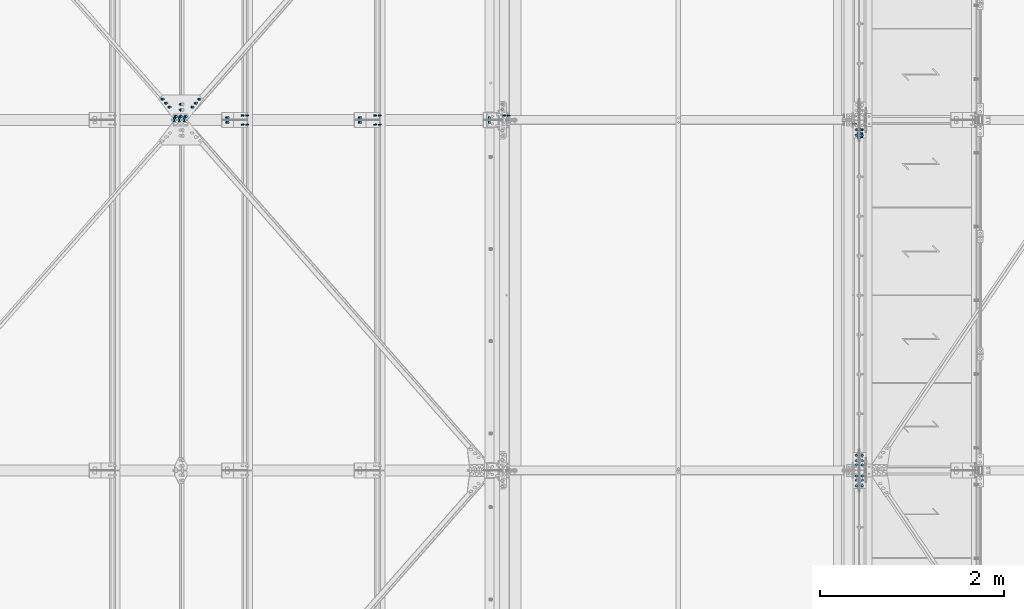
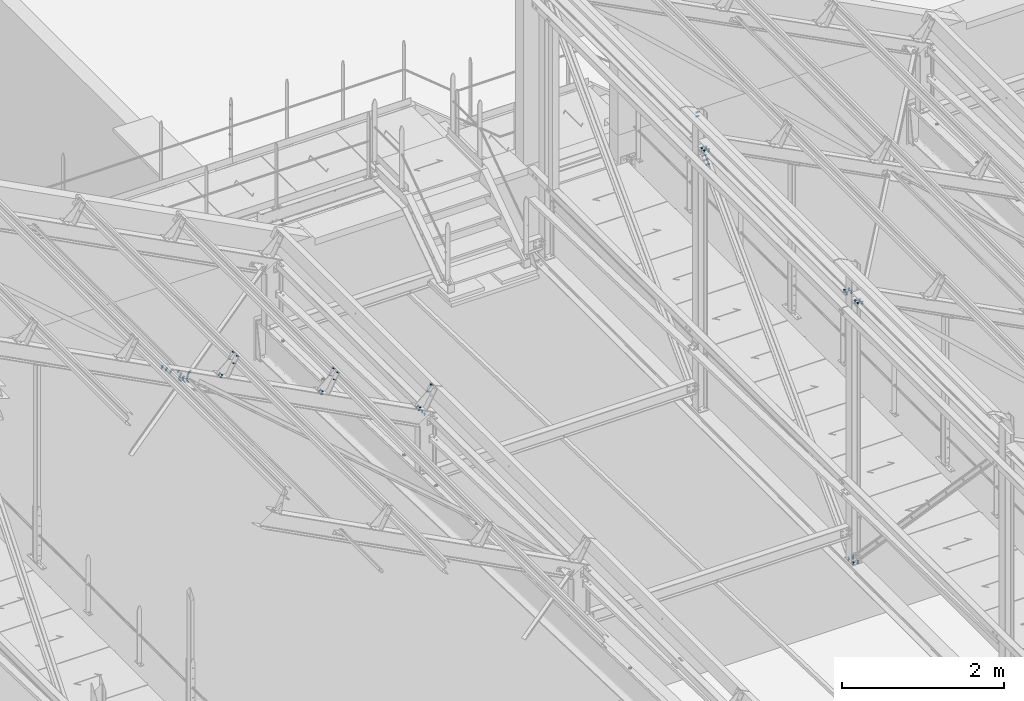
# One storey, part 171 of 362: 18 mechanical fasteners.
"""IFC2X3 building model written with IfcOpenShell, lengths in millimetres."""

import ifcopenshell
import ifcopenshell.guid

model = None  # the IFC model being written
_history = None  # IfcOwnerHistory: only IFC2X3 demands one
_inside = {}  # id of a spatial element -> (the spatial element, [elements in it])
_under = {}  # id of a project, library or spatial element -> (it, [spatial elements below it])
_declared = {}  # id of a project -> (the project, [libraries it declares])
_typed = {}  # id of a type object -> (the type object, [elements of that type])
_made_of = {}  # id of a material, layer set ... -> (it, [elements and type objects made of it])


def new_model(schema):
    """Start an empty IFC model of exactly this schema.

    Asked for "IFC4X3", IfcOpenShell would pick the latest addendum, in which some entities
    have other attributes; the version numbers below select the first issue.
    IFC2X3 requires an IfcOwnerHistory on every rooted entity: one is made here for all.
    """
    global model, _history
    if schema == "IFC4X3":
        model = ifcopenshell.file(schema_version=(4, 3, 0, 0))
    else:
        model = ifcopenshell.file(schema=schema)
    _inside.clear()
    _under.clear()
    _declared.clear()
    _typed.clear()
    _made_of.clear()
    _history = None
    if model.schema == "IFC2X3":
        org = make("IfcOrganization", Name="unknown")
        user = make(
            "IfcPersonAndOrganization",
            ThePerson=make("IfcPerson", FamilyName="unknown"),
            TheOrganization=org,
        )
        app = make(
            "IfcApplication",
            ApplicationDeveloper=org,
            Version="unknown",
            ApplicationFullName="unknown",
            ApplicationIdentifier="unknown",
        )
        _history = make(
            "IfcOwnerHistory",
            OwningUser=user,
            OwningApplication=app,
            ChangeAction="ADDED",
            CreationDate=0,
        )
    return model


def make(cls, **values):
    """One entity of the class cls with the attributes given. An attribute that is None is left unset."""
    return model.create_entity(
        cls, **{name: value for name, value in values.items() if value is not None}
    )


def rooted(cls, **values):
    """An entity with a GlobalId (a new one), such as an element, a storey or a relation."""
    return make(cls, GlobalId=ifcopenshell.guid.new(), OwnerHistory=_history, **values)


def si_unit(unit_type, name, prefix=None):
    """IfcSIUnit, for example si_unit("LENGTHUNIT", "METRE", prefix="MILLI")."""
    return make("IfcSIUnit", UnitType=unit_type, Prefix=prefix, Name=name)


def assignment(units):
    """IfcUnitAssignment: the units of a project."""
    return None if units is None else make("IfcUnitAssignment", Units=units)


def point(xyz):
    """IfcCartesianPoint."""
    return None if xyz is None else make("IfcCartesianPoint", Coordinates=xyz)


def direction(xyz):
    """IfcDirection."""
    return None if xyz is None else make("IfcDirection", DirectionRatios=xyz)


def frame(location, z_axis=None, x_axis=None):
    """IfcAxis2Placement3D, a coordinate frame: its origin and axes. An axis left out is left unset."""
    return make(
        "IfcAxis2Placement3D",
        Location=point(location),
        Axis=direction(z_axis),
        RefDirection=direction(x_axis),
    )


def frame_2d(location, x_axis=None):
    """IfcAxis2Placement2D, a coordinate frame in the plane: its origin and x axis."""
    return make(
        "IfcAxis2Placement2D", Location=point(location), RefDirection=direction(x_axis)
    )


def origin_with_axes():
    """The frame at (0, 0, 0) with the z axis (0, 0, 1) and the x axis (1, 0, 0) written out."""
    return frame((0.0, 0.0, 0.0), z_axis=(0.0, 0.0, 1.0), x_axis=(1.0, 0.0, 0.0))


def origin_2d_with_axis():
    """The frame at (0, 0) in the plane with the x axis (1, 0) written out."""
    return frame_2d((0.0, 0.0), x_axis=(1.0, 0.0))


def place(relative_to, where):
    """IfcLocalPlacement: puts the frame where relative to a parent placement (None: the world)."""
    return make(
        "IfcLocalPlacement", PlacementRelTo=relative_to, RelativePlacement=where
    )


def context(
    kind, dimensions, precision=None, world=None, true_north=None, identifier=None
):
    """IfcGeometricRepresentationContext, for example the 3D "Model" context."""
    return make(
        "IfcGeometricRepresentationContext",
        ContextIdentifier=identifier,
        ContextType=kind,
        CoordinateSpaceDimension=dimensions,
        Precision=precision,
        WorldCoordinateSystem=world,
        TrueNorth=true_north,
    )


def subcontext(parent, identifier, kind, view, scale=None):
    """IfcGeometricRepresentationSubContext, for example "Body" below "Model"."""
    return make(
        "IfcGeometricRepresentationSubContext",
        ContextIdentifier=identifier,
        ContextType=kind,
        ParentContext=parent,
        TargetScale=scale,
        TargetView=view,
    )


def project(units=None, contexts=None):
    """IfcProject with its units and contexts."""
    return rooted(
        "IfcProject",
        Name="project",
        RepresentationContexts=contexts,
        UnitsInContext=assignment(units),
    )


def spatial(cls, under=None, at=None, **own):
    """A site, building, storey or space (cls), placed at a placement, below another one or the project."""
    s = rooted(cls, ObjectPlacement=at, **own)
    if under is not None:
        _under.setdefault(under.id(), (under, []))[1].append(s)
    return s


def polyline(points):
    """IfcPolyline through the points."""
    return make("IfcPolyline", Points=[point(p) for p in points])


def circle_curve(where, radius):
    """IfcCircle in the frame where."""
    return make("IfcCircle", Position=where, Radius=radius)


def parameter(value):
    """IfcParameterValue: where a trimmed curve begins or ends, as a parameter of its basis curve."""
    return model.create_entity("IfcParameterValue", value)


def trimmed(basis, trim1, trim2, sense, master):
    """IfcTrimmedCurve: the piece of a basis curve between two trims."""
    return make(
        "IfcTrimmedCurve",
        BasisCurve=basis,
        Trim1=trim1,
        Trim2=trim2,
        SenseAgreement=sense,
        MasterRepresentation=master,
    )


def segment(curve, same_sense, transition):
    """IfcCompositeCurveSegment."""
    return make(
        "IfcCompositeCurveSegment",
        Transition=transition,
        SameSense=same_sense,
        ParentCurve=curve,
    )


def composite_curve(segments, self_intersect=None):
    """IfcCompositeCurve: segments joined end to end."""
    return make("IfcCompositeCurve", Segments=segments, SelfIntersect=self_intersect)


def profile(cls, at=None, kind="AREA", **sizes):
    """A parametric profile (cls). Its sizes go by their IFC names, for example OverallWidth=200.0."""
    return make(cls, ProfileType=kind, Position=at, **sizes)


def circle(**sizes):
    """IfcCircleProfileDef."""
    return profile("IfcCircleProfileDef", **sizes)


def outline(outer, holes=None, kind="AREA"):
    """IfcArbitraryClosedProfileDef: a profile drawn as a closed curve; with holes, ...WithVoids."""
    if holes is None:
        return make("IfcArbitraryClosedProfileDef", ProfileType=kind, OuterCurve=outer)
    return make(
        "IfcArbitraryProfileDefWithVoids",
        ProfileType=kind,
        OuterCurve=outer,
        InnerCurves=holes,
    )


def extrude(swept, where, along, depth):
    """IfcExtrudedAreaSolid: the profile swept, set in the frame where, extruded along a direction by depth."""
    return make(
        "IfcExtrudedAreaSolid",
        SweptArea=swept,
        Position=where,
        ExtrudedDirection=direction(along),
        Depth=depth,
    )


def shape(context_of_items, identifier, shape_type, items):
    """IfcShapeRepresentation: the items that make up one representation, for example the "Body"."""
    return make(
        "IfcShapeRepresentation",
        ContextOfItems=context_of_items,
        RepresentationIdentifier=identifier,
        RepresentationType=shape_type,
        Items=items,
    )


def source(mapping_origin, context_of_items, identifier, shape_type, items):
    """IfcRepresentationMap: a shape defined once, which mapped items show again and again."""
    return make(
        "IfcRepresentationMap",
        MappingOrigin=mapping_origin,
        MappedRepresentation=shape(context_of_items, identifier, shape_type, items),
    )


def transform(
    local_origin,
    x_axis=None,
    y_axis=None,
    z_axis=None,
    scale=None,
    scale2=None,
    scale3=None,
    uniform=True,
):
    """IfcCartesianTransformationOperator3D, or its non-uniform kind. x_axis, y_axis, z_axis: its Axis1, 2, 3."""
    if uniform:
        return make(
            "IfcCartesianTransformationOperator3D",
            Axis1=direction(x_axis),
            Axis2=direction(y_axis),
            LocalOrigin=point(local_origin),
            Scale=scale,
            Axis3=direction(z_axis),
        )
    return make(
        "IfcCartesianTransformationOperator3DnonUniform",
        Axis1=direction(x_axis),
        Axis2=direction(y_axis),
        LocalOrigin=point(local_origin),
        Scale=scale,
        Axis3=direction(z_axis),
        Scale2=scale2,
        Scale3=scale3,
    )


def mapped(mapping_source, mapping_target):
    """IfcMappedItem: shows the shape of a source again, moved by a transform."""
    return make(
        "IfcMappedItem", MappingSource=mapping_source, MappingTarget=mapping_target
    )


def material(Name=None, Category=None):
    """IfcMaterial."""
    return make("IfcMaterial", Name=Name, Category=Category)


def made_of(thing, what):
    """Note that an element or type object is made of a material, layer set ...; save() writes the relation."""
    if what is not None:
        _made_of.setdefault(what.id(), (what, []))[1].append(thing)
    return thing


def type_object(cls, material=None, **own):
    """A type object (cls), such as IfcWallType, which elements share."""
    return made_of(rooted(cls, **own), material)


def element(
    cls,
    number,
    at=None,
    inside=None,
    cuts=None,
    type_object=None,
    material=None,
    context=None,
    identifier="Body",
    shape_type=None,
    held_by="IfcProductDefinitionShape",
    body=None,
    shapes=None,
    **own,
):
    """One element of the class cls, such as IfcWall. Its Tag is "e" and its number.

    at: its placement. inside: the storey or other place that contains it. cuts: it is an
    opening in that element (IfcRelVoidsElement). A single representation is given by context,
    identifier, shape_type and body (its items); several are given by shapes. held_by: the class
    of the entity that holds the representations. save() writes the other relations.
    """
    e = rooted(cls, Tag="e%d" % number, ObjectPlacement=at, **own)
    if body is not None:
        shapes = [shape(context, identifier, shape_type, body)]
    if shapes is not None:
        e.Representation = make(held_by, Representations=shapes)
    if inside is not None:
        _inside.setdefault(inside.id(), (inside, []))[1].append(e)
    if cuts is not None:
        rooted(
            "IfcRelVoidsElement", RelatingBuildingElement=cuts, RelatedOpeningElement=e
        )
    if type_object is not None:
        _typed.setdefault(type_object.id(), (type_object, []))[1].append(e)
    return made_of(e, material)


def aggregate(whole, parts):
    """IfcRelAggregates: a whole, such as a stair, and the parts it consists of."""
    return rooted("IfcRelAggregates", RelatingObject=whole, RelatedObjects=parts)


def save(model, path):
    """Write the relations noted so far, then the file.

    IfcRelAggregates (storeys below a building ...), IfcRelContainedInSpatialStructure (elements
    in a storey), IfcRelDefinesByType, IfcRelAssociatesMaterial and IfcRelDeclares: one each for
    every whole, place, type object, material and project.
    """
    for whole, parts in _under.values():
        aggregate(whole, parts)
    for where, things in _inside.values():
        rooted(
            "IfcRelContainedInSpatialStructure",
            RelatedElements=things,
            RelatingStructure=where,
        )
    for kind, things in _typed.values():
        rooted("IfcRelDefinesByType", RelatedObjects=things, RelatingType=kind)
    for what, things in _made_of.values():
        rooted("IfcRelAssociatesMaterial", RelatedObjects=things, RelatingMaterial=what)
    for by, libraries in _declared.values():
        rooted("IfcRelDeclares", RelatingContext=by, RelatedDefinitions=libraries)
    model.write(path)


model = new_model("IFC2X3")

# Units and contexts
model_context = context("Model", 3, precision=1e-05, world=origin_with_axes())
body_context = subcontext(model_context, "Body", "Model", "MODEL_VIEW")
ifc_project = project(units=[si_unit("LENGTHUNIT", "METRE", prefix="MILLI"), si_unit("AREAUNIT", "SQUARE_METRE"), si_unit("VOLUMEUNIT", "CUBIC_METRE"), si_unit("MASSUNIT", "GRAM", prefix="KILO"), si_unit("TIMEUNIT", "SECOND"), si_unit("PLANEANGLEUNIT", "RADIAN"), si_unit("SOLIDANGLEUNIT", "STERADIAN"), si_unit("THERMODYNAMICTEMPERATUREUNIT", "DEGREE_CELSIUS"), si_unit("LUMINOUSINTENSITYUNIT", "LUMEN")], contexts=[model_context])

# Site, building, storey
site_placement = place(None, origin_with_axes())
site = spatial("IfcSite", under=ifc_project, at=site_placement, Name="Undefined", CompositionType="ELEMENT")
building_placement = place(site_placement, origin_with_axes())
building = spatial("IfcBuilding", under=site, at=building_placement, Name="Undefined", CompositionType="ELEMENT")
storey_placement = place(building_placement, origin_with_axes())
storey = spatial("IfcBuildingStorey", under=building, at=storey_placement, Name="Undefined", CompositionType="ELEMENT", Elevation=0.0)

# Mechanical fasteners
ifc_material_1 = material(Name="8.8-SB-ZINGUE")
mechanical_fastener_type = type_object("IfcMechanicalFastenerType", Name="Bolt assembly")
shared_shape_1 = source(origin_with_axes(), body_context, "Body", "SweptSolid", [
    extrude(circle(Radius=7.0, at=origin_2d_with_axis()), frame((0.0, -0.100011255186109, 0.0), z_axis=(0.0, 1.0, 0.0), x_axis=(1.0, 0.0, 0.0)), (0.0, 0.0, 1.0), 3.1),
    extrude(circle(Radius=7.0, at=origin_2d_with_axis()), frame((0.0, -9.9, 0.0), z_axis=(0.0, 1.0, 0.0), x_axis=(1.0, 0.0, 0.0)), (0.0, 0.0, 1.0), 10.0),
    extrude(outline(polyline([(10.39230484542, 0.0), (5.19615242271, 9.00000000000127), (-5.19615242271, 9.00000000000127), (-10.39230484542, 0.0), (-5.19615242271, -9.00000000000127), (5.19615242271, -9.00000000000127), (10.39230484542, 0.0)])), frame((0.0, -17.92, 0.0), z_axis=(0.0, 1.0, 0.0), x_axis=(1.0, 0.0, 0.0)), (0.0, 0.0, 1.0), 7.92),
    extrude(circle(Radius=6.0, at=origin_2d_with_axis()), frame((0.0, -10.0000010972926, 0.0), z_axis=(0.0, 1.0, 0.0), x_axis=(1.0, 0.0, 0.0)), (0.0, 0.0, 1.0), 30.0),
    extrude(outline(polyline([(11.5008173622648, 0.0), (5.7504086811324, 9.96000000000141), (-5.7504086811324, 9.96000000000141), (-11.5008173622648, 0.0), (-5.7504086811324, -9.96000000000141), (5.7504086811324, -9.96000000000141), (11.5008173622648, 0.0)])), frame((0.0, 3.00000067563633, 0.0), z_axis=(0.0, 1.0, 0.0), x_axis=(1.0, 0.0, 0.0)), (0.0, 0.0, 1.0), 7.92),
])
mechanical_fastener_1_placement = place(storey_placement, frame((19620.3252333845, 11449.9999403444, 8812.98460901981), z_axis=(0.0, 1.0, 0.0), x_axis=(0.463528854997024, 6.99999093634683e-09, 0.886081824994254)))
element("IfcMechanicalFastener", 1, at=mechanical_fastener_1_placement, inside=storey, type_object=mechanical_fastener_type, material=ifc_material_1, Name="Bolt assembly", NominalDiameter=12.0, NominalLength=30.0, context=body_context, shape_type="MappedRepresentation", body=[
    mapped(shared_shape_1, transform((0.0, 0.0, 0.0))),
    mapped(shared_shape_1, transform((99.9999999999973, -1.63709046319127e-11, 7.73070496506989e-12))),
])
ifc_material_2 = material(Name="#_SB-8.8-ZINGUE")
shared_shape_2 = source(origin_with_axes(), body_context, "Body", "SweptSolid", [
    extrude(circle(Radius=9.0, at=origin_2d_with_axis()), frame((0.0, -5.8999542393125, 0.0), z_axis=(0.0, 1.0, 0.0), x_axis=(1.0, 0.0, 0.0)), (0.0, 0.0, 1.0), 6.0),
    extrude(circle(Radius=9.0, at=origin_2d_with_axis()), frame((0.0, -0.100011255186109, 0.0), z_axis=(0.0, 1.0, 0.0), x_axis=(1.0, 0.0, 0.0)), (0.0, 0.0, 1.0), 6.1),
    extrude(outline(polyline([(13.85640646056, 0.0), (6.92820323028, 12.0000000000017), (-6.92820323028, 12.0000000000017), (-13.85640646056, 0.0), (-6.92820323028, -12.0000000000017), (6.92820323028, -12.0000000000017), (13.85640646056, 0.0)])), frame((0.0, -16.5599735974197, 0.0), z_axis=(0.0, 1.0, 0.0), x_axis=(1.0, 0.0, 0.0)), (0.0, 0.0, 1.0), 10.56),
    extrude(circle(Radius=8.0, at=origin_2d_with_axis()), frame((0.0, -5.9999542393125, 0.0), z_axis=(0.0, 1.0, 0.0), x_axis=(1.0, 0.0, 0.0)), (0.0, 0.0, 1.0), 40.0),
    extrude(outline(polyline([(15.3344231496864, 0.0), (7.6672115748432, 13.2800000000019), (-7.6672115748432, 13.2800000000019), (-15.3344231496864, 0.0), (-7.6672115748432, -13.2800000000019), (7.6672115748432, -13.2800000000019), (15.3344231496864, 0.0)])), frame((0.0, 6.0, 0.0), z_axis=(0.0, 1.0, 0.0), x_axis=(1.0, 0.0, 0.0)), (0.0, 0.0, 1.0), 10.56),
])
for number, where, z_axis, x_axis, name in (
    (2, (15990.8395806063, 11540.9905417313, 10339.2198593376), (-0.628485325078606, -0.704921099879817, 0.32877414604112), (-0.624617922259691, 0.70928572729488, 0.326750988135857), "Bolt assembly"),
    (3, (16239.1604210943, 11540.9905442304, 10209.3179168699), (-0.628485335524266, 0.704921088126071, 0.328774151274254), (0.624617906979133, 0.7092857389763, -0.326750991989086), "Bolt assembly"),
):
    element("IfcMechanicalFastener", number, at=place(storey_placement, frame(where, z_axis=z_axis, x_axis=x_axis)), inside=storey, type_object=mechanical_fastener_type, material=ifc_material_2, Name=name, NominalDiameter=16.0, NominalLength=40.0, context=body_context, shape_type="MappedRepresentation", body=[
        mapped(shared_shape_2, transform((0.0, 0.0, 0.0))),
        mapped(shared_shape_2, transform((60.0, 0.0, 0.0))),
        mapped(shared_shape_2, transform((120.0, 0.0, 0.0))),
    ])
shared_shape_3 = source(origin_with_axes(), body_context, "Body", "SweptSolid", [
    extrude(circle(Radius=9.0, at=origin_2d_with_axis()), frame((0.0, 0.1, 0.0), z_axis=(0.0, 1.0, 0.0), x_axis=(1.0, 0.0, 0.0)), (0.0, 0.0, 1.0), 6.0),
    extrude(circle(Radius=9.0, at=origin_2d_with_axis()), frame((0.0, 5.90002706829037, 0.0), z_axis=(0.0, 1.0, 0.0), x_axis=(1.0, 0.0, 0.0)), (0.0, 0.0, 1.0), 6.1),
    extrude(outline(polyline([(13.85640646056, 0.0), (6.92820323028, 12.0000000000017), (-6.92820323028, 12.0000000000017), (-13.85640646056, 0.0), (-6.92820323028, -12.0000000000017), (6.92820323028, -12.0000000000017), (13.85640646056, 0.0)])), frame((0.0, -10.5600019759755, 0.0), z_axis=(0.0, 1.0, 0.0), x_axis=(1.0, 0.0, 0.0)), (0.0, 0.0, 1.0), 10.56),
    extrude(circle(Radius=8.0, at=origin_2d_with_axis()), frame((0.0, 0.0, 0.0), z_axis=(0.0, 1.0, 0.0), x_axis=(1.0, 0.0, 0.0)), (0.0, 0.0, 1.0), 40.0),
    extrude(outline(polyline([(15.3344231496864, 0.0), (7.6672115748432, 13.2800000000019), (-7.6672115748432, 13.2800000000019), (-15.3344231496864, 0.0), (-7.6672115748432, -13.2800000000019), (7.6672115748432, -13.2800000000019), (15.3344231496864, 0.0)])), frame((0.0, 12.0000270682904, 0.0), z_axis=(0.0, 1.0, 0.0), x_axis=(1.0, 0.0, 0.0)), (0.0, 0.0, 1.0), 10.56),
])
mechanical_fastener_2_placement = place(storey_placement, frame((16114.9966680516, 11438.4999489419, 10274.2706323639), z_axis=(0.886081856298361, 3.500000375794e-08, -0.463528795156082), x_axis=(0.0, -1.0, 0.0)))
element("IfcMechanicalFastener", 4, at=mechanical_fastener_2_placement, inside=storey, type_object=mechanical_fastener_type, material=ifc_material_2, Name="Bolt assembly", NominalDiameter=16.0, NominalLength=40.0, context=body_context, shape_type="MappedRepresentation", body=[
    mapped(shared_shape_3, transform((0.0, 0.0, -60.0))),
    mapped(shared_shape_3, transform((0.0, 0.0, 0.0))),
    mapped(shared_shape_3, transform((0.0, 0.0, 60.0))),
])
shared_shape_4 = source(origin_with_axes(), body_context, "Body", "SweptSolid", [
    extrude(circle(Radius=9.0, at=origin_2d_with_axis()), frame((0.0, -10.9000000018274, 0.0), z_axis=(0.0, 1.0, 0.0), x_axis=(1.0, 0.0, 0.0)), (0.0, 0.0, 1.0), 6.0),
    extrude(circle(Radius=9.0, at=origin_2d_with_axis()), frame((0.0, 4.9000000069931, 0.0), z_axis=(0.0, 1.0, 0.0), x_axis=(1.0, 0.0, 0.0)), (0.0, 0.0, 1.0), 6.1),
    extrude(circle(Radius=9.0, at=origin_2d_with_axis()), frame((0.0, -3.99999923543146, 0.0), z_axis=(0.0, 1.0, 0.0), x_axis=(1.0, 0.0, 0.0)), (0.0, 0.0, 1.0), 8.0),
    extrude(outline(polyline([(13.85640646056, 0.0), (6.92820323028, 12.0000000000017), (-6.92820323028, 12.0000000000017), (-13.85640646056, 0.0), (-6.92820323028, -12.0000000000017), (6.92820323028, -12.0000000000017), (13.85640646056, 0.0)])), frame((0.0, -21.5600000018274, 0.0), z_axis=(0.0, 1.0, 0.0), x_axis=(1.0, 0.0, 0.0)), (0.0, 0.0, 1.0), 10.56),
    extrude(circle(Radius=8.0, at=origin_2d_with_axis()), frame((0.0, -11.0000000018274, 0.0), z_axis=(0.0, 1.0, 0.0), x_axis=(1.0, 0.0, 0.0)), (0.0, 0.0, 1.0), 50.0),
    extrude(outline(polyline([(15.3344231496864, 0.0), (7.6672115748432, 13.2800000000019), (-7.6672115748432, 13.2800000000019), (-15.3344231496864, 0.0), (-7.6672115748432, -13.2800000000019), (7.6672115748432, -13.2800000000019), (15.3344231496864, 0.0)])), frame((0.0, 11.0000000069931, 0.0), z_axis=(0.0, 1.0, 0.0), x_axis=(1.0, 0.0, 0.0)), (0.0, 0.0, 1.0), 10.56),
])
mechanical_fastener_3_placement = place(storey_placement, frame((23470.0, 11296.497326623, 11127.4311435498), z_axis=(0.0, -0.723792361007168, 0.69001783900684), x_axis=(0.0, -0.69001783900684, -0.723792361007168)))
element("IfcMechanicalFastener", 5, at=mechanical_fastener_3_placement, inside=storey, type_object=mechanical_fastener_type, material=ifc_material_1, Name="Bolt assembly", NominalDiameter=16.0, NominalLength=50.0, context=body_context, shape_type="MappedRepresentation", body=[
    mapped(shared_shape_4, transform((0.0, 0.0, 0.0))),
    mapped(shared_shape_4, transform((60.0, 0.0, 0.0))),
    mapped(shared_shape_4, transform((120.0, 0.0, 0.0))),
])
shared_shape_5 = source(origin_with_axes(), body_context, "Body", "SweptSolid", [
    extrude(circle(Radius=7.0, at=origin_2d_with_axis()), frame((0.0, -0.100011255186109, 0.0), z_axis=(0.0, 1.0, 0.0), x_axis=(1.0, 0.0, 0.0)), (0.0, 0.0, 1.0), 1.6),
    extrude(circle(Radius=7.0, at=origin_2d_with_axis()), frame((0.0, -9.9, 0.0), z_axis=(0.0, 1.0, 0.0), x_axis=(1.0, 0.0, 0.0)), (0.0, 0.0, 1.0), 10.0),
    extrude(outline(polyline([(10.39230484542, 0.0), (5.19615242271, 9.00000000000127), (-5.19615242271, 9.00000000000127), (-10.39230484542, 0.0), (-5.19615242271, -9.00000000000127), (5.19615242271, -9.00000000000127), (10.39230484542, 0.0)])), frame((0.0, -17.92, 0.0), z_axis=(0.0, 1.0, 0.0), x_axis=(1.0, 0.0, 0.0)), (0.0, 0.0, 1.0), 7.92),
    extrude(circle(Radius=6.0, at=origin_2d_with_axis()), frame((0.0, -10.0000010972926, 0.0), z_axis=(0.0, 1.0, 0.0), x_axis=(1.0, 0.0, 0.0)), (0.0, 0.0, 1.0), 30.0),
    extrude(outline(polyline([(11.5008173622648, 0.0), (5.7504086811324, 9.96000000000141), (-5.7504086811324, 9.96000000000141), (-11.5008173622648, 0.0), (-5.7504086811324, -9.96000000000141), (5.7504086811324, -9.96000000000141), (11.5008173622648, 0.0)])), frame((0.0, 1.50001896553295, 0.0), z_axis=(0.0, 1.0, 0.0), x_axis=(1.0, 0.0, 0.0)), (0.0, 0.0, 1.0), 7.92),
])
for number, where, z_axis, x_axis, name in (
    (6, (18222.4353752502, 11400.0000596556, 9543.12202799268), (0.0, 1.0, 0.0), (0.463528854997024, 6.99999093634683e-09, 0.886081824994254), "Bolt assembly"),
    (7, (16785.1353099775, 11400.0000596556, 10295.0043300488), (0.0, 1.0, 0.0), (0.463528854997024, 6.99999093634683e-09, 0.886081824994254), "Bolt assembly"),
):
    element("IfcMechanicalFastener", number, at=place(storey_placement, frame(where, z_axis=z_axis, x_axis=x_axis)), inside=storey, type_object=mechanical_fastener_type, material=ifc_material_1, Name=name, NominalDiameter=12.0, NominalLength=30.0, context=body_context, shape_type="MappedRepresentation", body=[
        mapped(shared_shape_5, transform((0.0, 0.0, -50.0))),
        mapped(shared_shape_5, transform((102.00000000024, -2.51020537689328e-10, -50.0))),
        mapped(shared_shape_5, transform((0.0, 0.0, 50.0))),
        mapped(shared_shape_5, transform((102.00000000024, -2.51020537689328e-10, 50.0))),
    ])
shared_shape_6 = source(origin_with_axes(), body_context, "Body", "SweptSolid", [
    extrude(circle(Radius=9.0, at=origin_2d_with_axis()), frame((0.0, -0.0999426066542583, 0.0), z_axis=(0.0, 1.0, 0.0), x_axis=(1.0, 0.0, 0.0)), (0.0, 0.0, 1.0), 9.9),
    extrude(circle(Radius=9.0, at=origin_2d_with_axis()), frame((0.0, -9.9, 0.0), z_axis=(0.0, 1.0, 0.0), x_axis=(1.0, 0.0, 0.0)), (0.0, 0.0, 1.0), 10.0),
    extrude(outline(polyline([(13.85640646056, 0.0), (6.92820323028, 12.0000000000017), (-6.92820323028, 12.0000000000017), (-13.85640646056, 0.0), (-6.92820323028, -12.0000000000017), (6.92820323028, -12.0000000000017), (13.85640646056, 0.0)])), frame((0.0, -20.5600000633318, 0.0), z_axis=(0.0, 1.0, 0.0), x_axis=(1.0, 0.0, 0.0)), (0.0, 0.0, 1.0), 10.56),
    extrude(circle(Radius=8.0, at=origin_2d_with_axis()), frame((0.0, -10.0000010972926, 0.0), z_axis=(0.0, 1.0, 0.0), x_axis=(1.0, 0.0, 0.0)), (0.0, 0.0, 1.0), 40.0),
    extrude(outline(polyline([(15.3344231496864, 0.0), (7.6672115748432, 13.2800000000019), (-7.6672115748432, 13.2800000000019), (-15.3344231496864, 0.0), (-7.6672115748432, -13.2800000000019), (7.6672115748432, -13.2800000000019), (15.3344231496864, 0.0)])), frame((0.0, 9.80008147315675, 0.0), z_axis=(0.0, 1.0, 0.0), x_axis=(1.0, 0.0, 0.0)), (0.0, 0.0, 1.0), 10.56),
])
mechanical_fastener_4_placement = place(storey_placement, frame((16617.3712831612, 11400.0000375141, 10146.8954622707), z_axis=(0.0, 1.0, 0.0), x_axis=(0.886081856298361, 3.500000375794e-08, -0.463528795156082)))
element("IfcMechanicalFastener", 8, at=mechanical_fastener_4_placement, inside=storey, type_object=mechanical_fastener_type, material=ifc_material_1, Name="Bolt assembly", NominalDiameter=16.0, NominalLength=40.0, context=body_context, shape_type="MappedRepresentation", body=[
    mapped(shared_shape_6, transform((0.0, 0.0, -25.0))),
    mapped(shared_shape_6, transform((0.0, 0.0, 25.0))),
])
shared_shape_7 = source(origin_with_axes(), body_context, "Body", "SweptSolid", [
    extrude(circle(Radius=9.0, at=origin_2d_with_axis()), frame((0.0, -0.0998569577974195, 0.0), z_axis=(0.0, 1.0, 0.0), x_axis=(1.0, 0.0, 0.0)), (0.0, 0.0, 1.0), 9.9),
    extrude(circle(Radius=9.0, at=origin_2d_with_axis()), frame((0.0, -9.9, 0.0), z_axis=(0.0, 1.0, 0.0), x_axis=(1.0, 0.0, 0.0)), (0.0, 0.0, 1.0), 10.0),
    extrude(outline(polyline([(13.85640646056, 0.0), (6.92820323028, 12.0000000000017), (-6.92820323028, 12.0000000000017), (-13.85640646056, 0.0), (-6.92820323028, -12.0000000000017), (6.92820323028, -12.0000000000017), (13.85640646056, 0.0)])), frame((0.0, -20.5600000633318, 0.0), z_axis=(0.0, 1.0, 0.0), x_axis=(1.0, 0.0, 0.0)), (0.0, 0.0, 1.0), 10.56),
    extrude(circle(Radius=8.0, at=origin_2d_with_axis()), frame((0.0, -10.0000010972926, 0.0), z_axis=(0.0, 1.0, 0.0), x_axis=(1.0, 0.0, 0.0)), (0.0, 0.0, 1.0), 40.0),
    extrude(outline(polyline([(15.3344231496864, 0.0), (7.6672115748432, 13.2800000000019), (-7.6672115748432, 13.2800000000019), (-15.3344231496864, 0.0), (-7.6672115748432, -13.2800000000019), (7.6672115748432, -13.2800000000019), (15.3344231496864, 0.0)])), frame((0.0, 9.80017144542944, 0.0), z_axis=(0.0, 1.0, 0.0), x_axis=(1.0, 0.0, 0.0)), (0.0, 0.0, 1.0), 10.56),
])
mechanical_fastener_5_placement = place(storey_placement, frame((18054.6713484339, 11400.0000375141, 9395.01316021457), z_axis=(0.0, 1.0, 0.0), x_axis=(0.886081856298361, 3.500000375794e-08, -0.463528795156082)))
element("IfcMechanicalFastener", 9, at=mechanical_fastener_5_placement, inside=storey, type_object=mechanical_fastener_type, material=ifc_material_1, Name="Bolt assembly", NominalDiameter=16.0, NominalLength=40.0, context=body_context, shape_type="MappedRepresentation", body=[
    mapped(shared_shape_7, transform((0.0, 0.0, -25.0))),
    mapped(shared_shape_7, transform((0.0, 0.0, 25.0))),
])
shared_shape_8 = source(origin_with_axes(), body_context, "Body", "SweptSolid", [
    extrude(circle(Radius=9.0, at=origin_2d_with_axis()), frame((0.0, -0.0997388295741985, 0.0), z_axis=(0.0, 1.0, 0.0), x_axis=(1.0, 0.0, 0.0)), (0.0, 0.0, 1.0), 9.9),
    extrude(circle(Radius=9.0, at=origin_2d_with_axis()), frame((0.0, -9.9, 0.0), z_axis=(0.0, 1.0, 0.0), x_axis=(1.0, 0.0, 0.0)), (0.0, 0.0, 1.0), 10.0),
    extrude(outline(polyline([(13.85640646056, 0.0), (6.92820323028, 12.0000000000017), (-6.92820323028, 12.0000000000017), (-13.85640646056, 0.0), (-6.92820323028, -12.0000000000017), (6.92820323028, -12.0000000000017), (13.85640646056, 0.0)])), frame((0.0, -20.5600000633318, 0.0), z_axis=(0.0, 1.0, 0.0), x_axis=(1.0, 0.0, 0.0)), (0.0, 0.0, 1.0), 10.56),
    extrude(circle(Radius=8.0, at=origin_2d_with_axis()), frame((0.0, -10.0000010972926, 0.0), z_axis=(0.0, 1.0, 0.0), x_axis=(1.0, 0.0, 0.0)), (0.0, 0.0, 1.0), 40.0),
    extrude(outline(polyline([(15.3344231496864, 0.0), (7.6672115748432, 13.2800000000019), (-7.6672115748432, 13.2800000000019), (-15.3344231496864, 0.0), (-7.6672115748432, -13.2800000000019), (7.6672115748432, -13.2800000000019), (15.3344231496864, 0.0)])), frame((0.0, 9.80025892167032, 0.0), z_axis=(0.0, 1.0, 0.0), x_axis=(1.0, 0.0, 0.0)), (0.0, 0.0, 1.0), 10.56),
])
mechanical_fastener_6_placement = place(storey_placement, frame((19452.097678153, 11400.0000375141, 8663.98965918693), z_axis=(0.0, 1.0, 0.0), x_axis=(0.886081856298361, 3.500000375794e-08, -0.463528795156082)))
element("IfcMechanicalFastener", 10, at=mechanical_fastener_6_placement, inside=storey, type_object=mechanical_fastener_type, material=ifc_material_1, Name="Bolt assembly", NominalDiameter=16.0, NominalLength=40.0, context=body_context, shape_type="MappedRepresentation", body=[
    mapped(shared_shape_8, transform((0.0, 0.0, -25.0))),
    mapped(shared_shape_8, transform((0.0, 0.0, 25.0))),
])
shared_shape_9 = source(origin_with_axes(), body_context, "Body", "SweptSolid", [
    extrude(circle(Radius=9.0, at=origin_2d_with_axis()), frame((0.0, -3.89999843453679, 0.0), z_axis=(0.0, 1.0, 0.0), x_axis=(1.0, 0.0, 0.0)), (0.0, 0.0, 1.0), 4.0),
    extrude(circle(Radius=9.0, at=origin_2d_with_axis()), frame((0.0, -0.100011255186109, 0.0), z_axis=(0.0, 1.0, 0.0), x_axis=(1.0, 0.0, 0.0)), (0.0, 0.0, 1.0), 6.1),
    extrude(outline(polyline([(13.85640646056, 0.0), (6.92820323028, 12.0000000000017), (-6.92820323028, 12.0000000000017), (-13.85640646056, 0.0), (-6.92820323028, -12.0000000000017), (6.92820323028, -12.0000000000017), (13.85640646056, 0.0)])), frame((0.0, -14.560000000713, 0.0), z_axis=(0.0, 1.0, 0.0), x_axis=(1.0, 0.0, 0.0)), (0.0, 0.0, 1.0), 10.56),
    extrude(circle(Radius=8.0, at=origin_2d_with_axis()), frame((0.0, -3.99999923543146, 0.0), z_axis=(0.0, 1.0, 0.0), x_axis=(1.0, 0.0, 0.0)), (0.0, 0.0, 1.0), 30.0),
    extrude(outline(polyline([(15.3344231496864, 0.0), (7.6672115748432, 13.2800000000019), (-7.6672115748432, 13.2800000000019), (-15.3344231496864, 0.0), (-7.6672115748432, -13.2800000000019), (7.6672115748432, -13.2800000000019), (15.3344231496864, 0.0)])), frame((0.0, 6.0, 0.0), z_axis=(0.0, 1.0, 0.0), x_axis=(1.0, 0.0, 0.0)), (0.0, 0.0, 1.0), 10.56),
])
mechanical_fastener_7_placement = place(storey_placement, frame((16114.9976018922, 11509.9984972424, 10274.270143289), z_axis=(-0.886082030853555, 2.26369604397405e-05, 0.463528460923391), x_axis=(2.00950000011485e-05, 0.999999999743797, -1.04209999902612e-05)))
element("IfcMechanicalFastener", 11, at=mechanical_fastener_7_placement, inside=storey, type_object=mechanical_fastener_type, material=ifc_material_2, Name="Bolt assembly", NominalDiameter=16.0, NominalLength=30.0, context=body_context, shape_type="MappedRepresentation", body=[
    mapped(shared_shape_9, transform((0.0, 0.0, 0.0))),
    mapped(shared_shape_9, transform((60.0, 0.0, 0.0))),
])
shared_shape_10 = source(origin_with_axes(), body_context, "Body", "SweptSolid", [
    extrude(circle(Radius=9.0, at=origin_2d_with_axis()), frame((0.0, -3.10006822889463, 0.0), z_axis=(0.0, 1.0, 0.0), x_axis=(1.0, 0.0, 0.0)), (0.0, 0.0, 1.0), 6.2),
    extrude(circle(Radius=9.0, at=origin_2d_with_axis()), frame((0.0, 3.3998951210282, 0.0), z_axis=(0.0, 1.0, 0.0), x_axis=(1.0, 0.0, 0.0)), (0.0, 0.0, 1.0), 6.1),
    extrude(circle(Radius=9.0, at=origin_2d_with_axis()), frame((0.0, -9.39989811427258, 0.0), z_axis=(0.0, 1.0, 0.0), x_axis=(1.0, 0.0, 0.0)), (0.0, 0.0, 1.0), 6.0),
    extrude(outline(polyline([(13.85640646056, 0.0), (6.92820323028, 12.0000000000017), (-6.92820323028, 12.0000000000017), (-13.85640646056, 0.0), (-6.92820323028, -12.0000000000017), (6.92820323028, -12.0000000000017), (13.85640646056, 0.0)])), frame((0.0, -20.0598981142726, 0.0), z_axis=(0.0, 1.0, 0.0), x_axis=(1.0, 0.0, 0.0)), (0.0, 0.0, 1.0), 10.56),
    extrude(circle(Radius=8.0, at=origin_2d_with_axis()), frame((0.0, -9.49989811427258, 0.0), z_axis=(0.0, 1.0, 0.0), x_axis=(1.0, 0.0, 0.0)), (0.0, 0.0, 1.0), 40.0),
    extrude(outline(polyline([(15.3344231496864, 0.0), (7.6672115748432, 13.2800000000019), (-7.6672115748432, 13.2800000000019), (-15.3344231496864, 0.0), (-7.6672115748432, -13.2800000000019), (7.6672115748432, -13.2800000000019), (15.3344231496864, 0.0)])), frame((0.0, 9.49989413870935, 0.0), z_axis=(0.0, 1.0, 0.0), x_axis=(1.0, 0.0, 0.0)), (0.0, 0.0, 1.0), 10.56),
])
mechanical_fastener_8_placement = place(storey_placement, frame((16095.9919747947, 11400.0000543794, 10237.9412454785), z_axis=(-0.886081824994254, 0.0, 0.463528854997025), x_axis=(0.463528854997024, 6.99999093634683e-09, 0.886081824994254)))
element("IfcMechanicalFastener", 12, at=mechanical_fastener_8_placement, inside=storey, type_object=mechanical_fastener_type, material=ifc_material_2, Name="Bolt assembly", NominalDiameter=16.0, NominalLength=40.0, context=body_context, shape_type="MappedRepresentation", body=[
    mapped(shared_shape_10, transform((0.0, 0.0, -60.0))),
    mapped(shared_shape_10, transform((0.0, 0.0, 0.0))),
    mapped(shared_shape_10, transform((0.0, 0.0, 60.0))),
])
shared_shape_11 = source(origin_with_axes(), body_context, "Body", "SweptSolid", [
    extrude(circle(Radius=7.0, at=origin_2d_with_axis()), frame((0.0, -3.89999843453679, 0.0), z_axis=(0.0, 1.0, 0.0), x_axis=(1.0, 0.0, 0.0)), (0.0, 0.0, 1.0), 4.0),
    extrude(outline(composite_curve([segment(polyline([(-7.0, 7.0), (7.0, 7.0)]), True, "CONTINUOUS"), segment(trimmed(circle_curve(frame_2d((7.0, 0.0), x_axis=(0.0, 1.0)), 7.0), [parameter(0.0)], [parameter(3.14159265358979)], False, "PARAMETER"), True, "CONTINUOUS"), segment(polyline([(7.0, -7.0), (-7.0, -7.0)]), True, "CONTINUOUS"), segment(trimmed(circle_curve(frame_2d((-7.0, 0.0), x_axis=(0.0, -1.0)), 7.0), [parameter(0.0)], [parameter(3.14159265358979)], False, "PARAMETER"), True, "DISCONTINUOUS")], self_intersect=False)), frame((0.0, -0.100011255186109, 0.0), z_axis=(0.0, 1.0, 0.0), x_axis=(1.0, 0.0, 0.0)), (0.0, 0.0, 1.0), 10.1),
    extrude(outline(polyline([(10.39230484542, 0.0), (5.19615242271, 9.00000000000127), (-5.19615242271, 9.00000000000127), (-10.39230484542, 0.0), (-5.19615242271, -9.00000000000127), (5.19615242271, -9.00000000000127), (10.39230484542, 0.0)])), frame((0.0, -11.9199984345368, 0.0), z_axis=(0.0, 1.0, 0.0), x_axis=(1.0, 0.0, 0.0)), (0.0, 0.0, 1.0), 7.92),
    extrude(circle(Radius=6.0, at=origin_2d_with_axis()), frame((0.0, -3.99999923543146, 0.0), z_axis=(0.0, 1.0, 0.0), x_axis=(1.0, 0.0, 0.0)), (0.0, 0.0, 1.0), 40.0),
    extrude(circle(Radius=10.8, at=origin_2d_with_axis()), frame((0.0, 10.0000000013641, 0.0), z_axis=(0.0, 1.0, 0.0), x_axis=(1.0, 0.0, 0.0)), (0.0, 0.0, 1.0), 3.96),
    extrude(outline(polyline([(11.5008173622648, 0.0), (5.7504086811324, 9.96000000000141), (-5.7504086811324, 9.96000000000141), (-11.5008173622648, 0.0), (-5.7504086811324, -9.96000000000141), (5.7504086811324, -9.96000000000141), (11.5008173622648, 0.0)])), frame((0.0, 13.96, 0.0), z_axis=(0.0, 1.0, 0.0), x_axis=(1.0, 0.0, 0.0)), (0.0, 0.0, 1.0), 7.92),
])
mechanical_fastener_9_placement = place(storey_placement, frame((19599.9999999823, 11573.5, 8450.0), z_axis=(1.0, 0.0, 0.0), x_axis=(0.0, -1.0, 0.0)))
element("IfcMechanicalFastener", 13, at=mechanical_fastener_9_placement, inside=storey, type_object=mechanical_fastener_type, material=ifc_material_1, Name="Bolt assembly", NominalDiameter=12.0, NominalLength=40.0, context=body_context, shape_type="MappedRepresentation", body=[
    mapped(shared_shape_11, transform((0.0, 0.0, 0.0))),
    mapped(shared_shape_11, transform((60.0, 0.0, 0.0))),
])
shared_shape_12 = source(origin_with_axes(), body_context, "Body", "SweptSolid", [
    extrude(circle(Radius=9.0, at=origin_2d_with_axis()), frame((0.0, -0.100011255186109, 0.0), z_axis=(0.0, 1.0, 0.0), x_axis=(1.0, 0.0, 0.0)), (0.0, 0.0, 1.0), 8.6),
    extrude(circle(Radius=9.0, at=origin_2d_with_axis()), frame((0.0, -2.9, 0.0), z_axis=(0.0, 1.0, 0.0), x_axis=(1.0, 0.0, 0.0)), (0.0, 0.0, 1.0), 3.0),
    extrude(outline(polyline([(13.85640646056, 0.0), (6.92820323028, 12.0000000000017), (-6.92820323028, 12.0000000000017), (-13.85640646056, 0.0), (-6.92820323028, -12.0000000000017), (6.92820323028, -12.0000000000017), (13.85640646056, 0.0)])), frame((0.0, -13.56, 0.0), z_axis=(0.0, 1.0, 0.0), x_axis=(1.0, 0.0, 0.0)), (0.0, 0.0, 1.0), 10.56),
    extrude(circle(Radius=8.0, at=origin_2d_with_axis()), frame((0.0, -2.99999932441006, 0.0), z_axis=(0.0, 1.0, 0.0), x_axis=(1.0, 0.0, 0.0)), (0.0, 0.0, 1.0), 40.0),
    extrude(outline(polyline([(15.3344231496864, 0.0), (7.6672115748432, 13.2800000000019), (-7.6672115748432, 13.2800000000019), (-15.3344231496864, 0.0), (-7.6672115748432, -13.2800000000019), (7.6672115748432, -13.2800000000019), (15.3344231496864, 0.0)])), frame((0.0, 8.49999994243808, 0.0), z_axis=(0.0, 1.0, 0.0), x_axis=(1.0, 0.0, 0.0)), (0.0, 0.0, 1.0), 10.56),
])
mechanical_fastener_10_placement = place(storey_placement, frame((23403.49999895, 11359.9999958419, 11701.409878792), z_axis=(0.0, 1.0, 0.0), x_axis=(0.0, 0.0, 1.0)))
element("IfcMechanicalFastener", 14, at=mechanical_fastener_10_placement, inside=storey, type_object=mechanical_fastener_type, material=ifc_material_1, Name="Bolt assembly", NominalDiameter=16.0, NominalLength=40.0, context=body_context, shape_type="MappedRepresentation", body=[
    mapped(shared_shape_12, transform((0.0, 0.0, 0.0))),
    mapped(shared_shape_12, transform((60.0, 0.0, 0.0))),
])
shared_shape_13 = source(origin_with_axes(), body_context, "Body", "SweptSolid", [
    extrude(circle(Radius=9.0, at=origin_2d_with_axis()), frame((0.0, -8.40001950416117, 0.0), z_axis=(0.0, 1.0, 0.0), x_axis=(1.0, 0.0, 0.0)), (0.0, 0.0, 1.0), 8.5),
    extrude(circle(Radius=9.0, at=origin_2d_with_axis()), frame((0.0, -0.100011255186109, 0.0), z_axis=(0.0, 1.0, 0.0), x_axis=(1.0, 0.0, 0.0)), (0.0, 0.0, 1.0), 10.1),
    extrude(outline(polyline([(13.85640646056, 0.0), (6.92820323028, 12.0000000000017), (-6.92820323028, 12.0000000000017), (-13.85640646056, 0.0), (-6.92820323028, -12.0000000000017), (6.92820323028, -12.0000000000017), (13.85640646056, 0.0)])), frame((0.0, -19.0599999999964, 0.0), z_axis=(0.0, 1.0, 0.0), x_axis=(1.0, 0.0, 0.0)), (0.0, 0.0, 1.0), 10.56),
    extrude(circle(Radius=8.0, at=origin_2d_with_axis()), frame((0.0, -8.5, 0.0), z_axis=(0.0, 1.0, 0.0), x_axis=(1.0, 0.0, 0.0)), (0.0, 0.0, 1.0), 40.0),
    extrude(outline(polyline([(15.3344231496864, 0.0), (7.6672115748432, 13.2800000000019), (-7.6672115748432, 13.2800000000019), (-15.3344231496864, 0.0), (-7.6672115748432, -13.2800000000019), (7.6672115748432, -13.2800000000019), (15.3344231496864, 0.0)])), frame((0.0, 10.0000000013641, 0.0), z_axis=(0.0, 1.0, 0.0), x_axis=(1.0, 0.0, 0.0)), (0.0, 0.0, 1.0), 10.56),
])
mechanical_fastener_11_placement = place(storey_placement, frame((23470.0000000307, 7494.99692211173, 11236.0), z_axis=(1.0, 0.0, 0.0), x_axis=(0.0, -1.0, 0.0)))
element("IfcMechanicalFastener", 15, at=mechanical_fastener_11_placement, inside=storey, type_object=mechanical_fastener_type, material=ifc_material_1, Name="Bolt assembly", NominalDiameter=16.0, NominalLength=40.0, context=body_context, shape_type="MappedRepresentation", body=[
    mapped(shared_shape_13, transform((0.0, 0.0, 32.5))),
    mapped(shared_shape_13, transform((60.0, 0.0, 32.5))),
    mapped(shared_shape_13, transform((0.0, 0.0, -32.5))),
    mapped(shared_shape_13, transform((60.0, 0.0, -32.5))),
])
mechanical_fastener_12_placement = place(storey_placement, frame((23470.0000000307, 7705.0, 11236.0), z_axis=(-1.0, 0.0, 0.0), x_axis=(0.0, 1.0, 0.0)))
element("IfcMechanicalFastener", 16, at=mechanical_fastener_12_placement, inside=storey, type_object=mechanical_fastener_type, material=ifc_material_1, Name="Bolt assembly", NominalDiameter=16.0, NominalLength=40.0, context=body_context, shape_type="MappedRepresentation", body=[
    mapped(shared_shape_13, transform((0.0, 0.0, -32.5))),
    mapped(shared_shape_13, transform((60.0, 0.0, -32.5))),
    mapped(shared_shape_13, transform((0.0, 0.0, 32.5))),
    mapped(shared_shape_13, transform((60.0, 0.0, 32.5))),
])
mechanical_fastener_13_placement = place(storey_placement, frame((23470.0000000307, 11294.9969221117, 11236.0), z_axis=(1.0, 0.0, 0.0), x_axis=(0.0, -1.0, 0.0)))
element("IfcMechanicalFastener", 17, at=mechanical_fastener_13_placement, inside=storey, type_object=mechanical_fastener_type, material=ifc_material_1, Name="Bolt assembly", NominalDiameter=16.0, NominalLength=40.0, context=body_context, shape_type="MappedRepresentation", body=[
    mapped(shared_shape_13, transform((0.0, 0.0, 32.5))),
    mapped(shared_shape_13, transform((60.0, 0.0, 32.5))),
    mapped(shared_shape_13, transform((0.0, 0.0, -32.5))),
    mapped(shared_shape_13, transform((60.0, 0.0, -32.5))),
])
shared_shape_14 = source(origin_with_axes(), body_context, "Body", "SweptSolid", [
    extrude(circle(Radius=9.0, at=origin_2d_with_axis()), frame((0.0, -0.10007666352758, 0.0), z_axis=(0.0, 1.0, 0.0), x_axis=(1.0, 0.0, 0.0)), (0.0, 0.0, 1.0), 9.6),
    extrude(circle(Radius=9.0, at=origin_2d_with_axis()), frame((0.0, -9.9, 0.0), z_axis=(0.0, 1.0, 0.0), x_axis=(1.0, 0.0, 0.0)), (0.0, 0.0, 1.0), 10.0),
    extrude(outline(polyline([(13.85640646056, 0.0), (6.92820323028, 12.0000000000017), (-6.92820323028, 12.0000000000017), (-13.85640646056, 0.0), (-6.92820323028, -12.0000000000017), (6.92820323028, -12.0000000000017), (13.85640646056, 0.0)])), frame((0.0, -20.5600000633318, 0.0), z_axis=(0.0, 1.0, 0.0), x_axis=(1.0, 0.0, 0.0)), (0.0, 0.0, 1.0), 10.56),
    extrude(circle(Radius=8.0, at=origin_2d_with_axis()), frame((0.0, -10.0000010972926, 0.0), z_axis=(0.0, 1.0, 0.0), x_axis=(1.0, 0.0, 0.0)), (0.0, 0.0, 1.0), 40.0),
    extrude(outline(polyline([(15.3344231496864, 0.0), (7.6672115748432, 13.2800000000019), (-7.6672115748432, 13.2800000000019), (-15.3344231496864, 0.0), (-7.6672115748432, -13.2800000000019), (7.6672115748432, -13.2800000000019), (15.3344231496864, 0.0)])), frame((0.0, 9.50000815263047, 0.0), z_axis=(0.0, 1.0, 0.0), x_axis=(1.0, 0.0, 0.0)), (0.0, 0.0, 1.0), 10.56),
])
mechanical_fastener_14_placement = place(storey_placement, frame((23470.0, 7540.00000000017, 7249.99996842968), z_axis=(-1.0, 0.0, 0.0), x_axis=(0.0, 1.0, 0.0)))
element("IfcMechanicalFastener", 18, at=mechanical_fastener_14_placement, inside=storey, type_object=mechanical_fastener_type, material=ifc_material_1, Name="Bolt assembly", NominalDiameter=16.0, NominalLength=40.0, context=body_context, shape_type="MappedRepresentation", body=[
    mapped(shared_shape_14, transform((0.0, 0.0, -32.5))),
    mapped(shared_shape_14, transform((120.0, 0.0, -32.5))),
    mapped(shared_shape_14, transform((0.0, 0.0, 32.5))),
    mapped(shared_shape_14, transform((120.0, 0.0, 32.5))),
])

save(model, "model.ifc")
